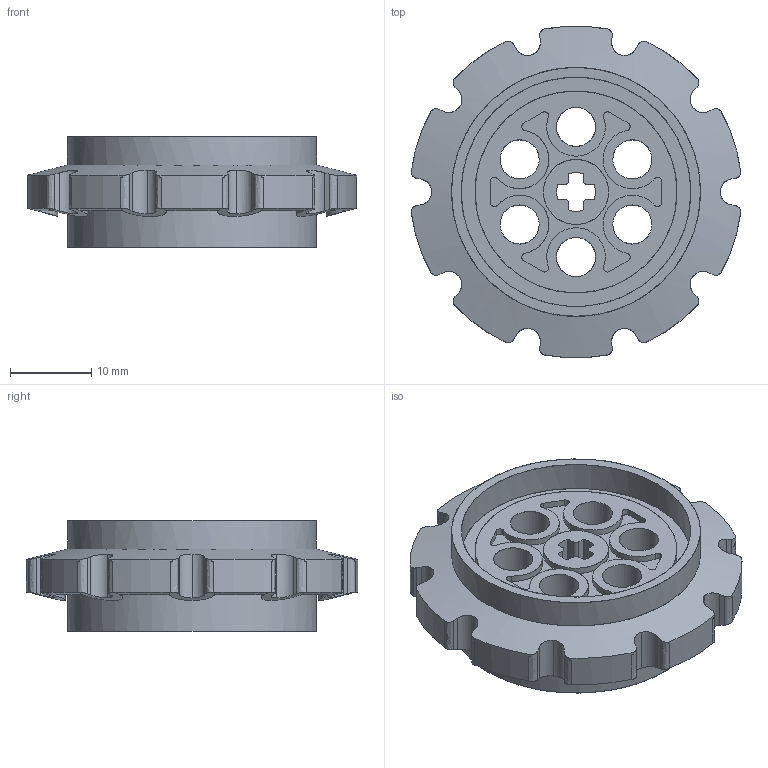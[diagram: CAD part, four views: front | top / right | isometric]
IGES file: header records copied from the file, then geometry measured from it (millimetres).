
Start section: C
Global section: file name: Black_4582792_AVV.iges; native system: By Siemens PLM Incorporated; preprocessor: XPlus GENERIC/IGES 26.1.183; author: Author; organization: Title; date: 20250721.234737; units: millimetre
Bounding box: 40.5 x 40.72 x 13.6 mm (x, y, z)
Surface area: 7747.3 mm2 (no closed solid volume)
Topology: 0 solids, 0 shells, 260 faces, 1484 edges, 1484 vertices
Faces by surface type: bspline 260
